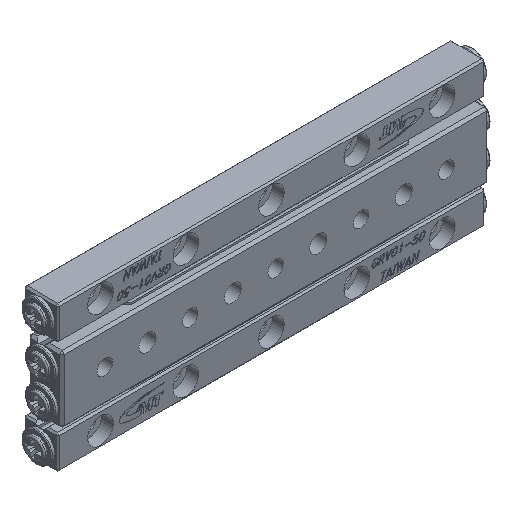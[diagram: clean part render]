
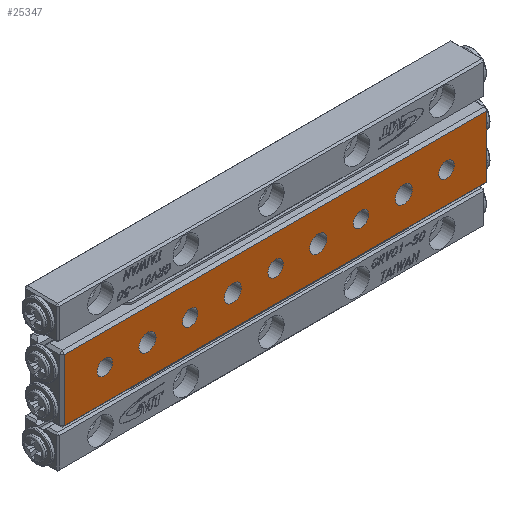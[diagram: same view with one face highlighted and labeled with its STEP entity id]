
A CAD part, isometric view. The second image highlights one B-rep face of the part: STEP entity #25347.
In plain terms, the highlighted planar face has unit normal (0, -1, 0).
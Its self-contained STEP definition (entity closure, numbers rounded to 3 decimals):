
#175 = ORIENTED_EDGE ( 'NONE', *, *, #200, .T. ) ;
#200 = EDGE_CURVE ( 'NONE', #33700, #33700, #25086, .T. ) ;
#463 = FACE_BOUND ( 'NONE', #28427, .T. ) ;
#865 = CIRCLE ( 'NONE', #5058, 1. ) ;
#1080 = DIRECTION ( 'NONE',  ( 0., 1., 0. ) ) ;
#1584 = CARTESIAN_POINT ( 'NONE',  ( -5., 0., 1. ) ) ;
#2842 = ORIENTED_EDGE ( 'NONE', *, *, #3937, .T. ) ;
#3348 = DIRECTION ( 'NONE',  ( 0., 1., 0. ) ) ;
#3487 = EDGE_LOOP ( 'NONE', ( #34354 ) ) ;
#3748 = FACE_OUTER_BOUND ( 'NONE', #29492, .T. ) ;
#3937 = EDGE_CURVE ( 'NONE', #30383, #30383, #20262, .T. ) ;
#3955 = CARTESIAN_POINT ( 'NONE',  ( 0., 0., 0.9 ) ) ;
#4145 = CARTESIAN_POINT ( 'NONE',  ( 10., 0., 0. ) ) ;
#4470 = ORIENTED_EDGE ( 'NONE', *, *, #35622, .T. ) ;
#4490 = DIRECTION ( 'NONE',  ( 0., 1., 0. ) ) ;
#4651 = VERTEX_POINT ( 'NONE', #1584 ) ;
#5053 = ORIENTED_EDGE ( 'NONE', *, *, #40429, .T. ) ;
#5058 = AXIS2_PLACEMENT_3D ( 'NONE', #26962, #40388, #43452 ) ;
#5215 = AXIS2_PLACEMENT_3D ( 'NONE', #33647, #32771, #19809 ) ;
#5312 = VERTEX_POINT ( 'NONE', #6179 ) ;
#5518 = CARTESIAN_POINT ( 'NONE',  ( -10., 0., 0.9 ) ) ;
#5957 = LINE ( 'NONE', #19376, #21195 ) ;
#6179 = CARTESIAN_POINT ( 'NONE',  ( 15., 0., 1. ) ) ;
#6372 = AXIS2_PLACEMENT_3D ( 'NONE', #40692, #37825, #14294 ) ;
#7284 = ORIENTED_EDGE ( 'NONE', *, *, #42427, .T. ) ;
#7300 = AXIS2_PLACEMENT_3D ( 'NONE', #28436, #4490, #42302 ) ;
#7314 = CARTESIAN_POINT ( 'NONE',  ( -20., 0., 0.9 ) ) ;
#7539 = VERTEX_POINT ( 'NONE', #27032 ) ;
#7680 = CIRCLE ( 'NONE', #23872, 1. ) ;
#7687 = PLANE ( 'NONE',  #6372 ) ;
#8328 = CARTESIAN_POINT ( 'NONE',  ( -15., 0., 0. ) ) ;
#9519 = CARTESIAN_POINT ( 'NONE',  ( 20., 0., 0. ) ) ;
#10146 = VERTEX_POINT ( 'NONE', #3955 ) ;
#11515 = EDGE_CURVE ( 'NONE', #21446, #23902, #19653, .T. ) ;
#12212 = CIRCLE ( 'NONE', #39632, 1. ) ;
#12295 = CIRCLE ( 'NONE', #20024, 0.9 ) ;
#12845 = DIRECTION ( 'NONE',  ( 0., 0., 1. ) ) ;
#12914 = EDGE_LOOP ( 'NONE', ( #7284 ) ) ;
#13219 = CARTESIAN_POINT ( 'NONE',  ( 20., 0., 0.9 ) ) ;
#13663 = FACE_BOUND ( 'NONE', #17762, .T. ) ;
#13716 = DIRECTION ( 'NONE',  ( 0., 1., 0. ) ) ;
#13866 = FACE_BOUND ( 'NONE', #29063, .T. ) ;
#14294 = DIRECTION ( 'NONE',  ( 0., 0., 1. ) ) ;
#14873 = EDGE_CURVE ( 'NONE', #24669, #24669, #37465, .T. ) ;
#14995 = CARTESIAN_POINT ( 'NONE',  ( 10., 0., 0.9 ) ) ;
#15423 = EDGE_CURVE ( 'NONE', #23902, #15991, #38181, .T. ) ;
#15718 = VECTOR ( 'NONE', #42334, 1000. ) ;
#15991 = VERTEX_POINT ( 'NONE', #24392 ) ;
#16103 = EDGE_CURVE ( 'NONE', #4651, #4651, #12212, .T. ) ;
#16121 = CARTESIAN_POINT ( 'NONE',  ( -20., 0., 0. ) ) ;
#16753 = DIRECTION ( 'NONE',  ( 0., 0., 1. ) ) ;
#17213 = DIRECTION ( 'NONE',  ( -1., 0., 0. ) ) ;
#17517 = ORIENTED_EDGE ( 'NONE', *, *, #11515, .T. ) ;
#17762 = EDGE_LOOP ( 'NONE', ( #27767 ) ) ;
#17809 = FACE_BOUND ( 'NONE', #32739, .T. ) ;
#18604 = CARTESIAN_POINT ( 'NONE',  ( -25., 0., -3.6 ) ) ;
#19163 = VERTEX_POINT ( 'NONE', #36097 ) ;
#19376 = CARTESIAN_POINT ( 'NONE',  ( 24.7, 0., 3.9 ) ) ;
#19653 = LINE ( 'NONE', #43403, #29548 ) ;
#19809 = DIRECTION ( 'NONE',  ( 0., 0., 1. ) ) ;
#20024 = AXIS2_PLACEMENT_3D ( 'NONE', #9519, #35699, #29499 ) ;
#20262 = CIRCLE ( 'NONE', #23789, 0.9 ) ;
#20298 = CARTESIAN_POINT ( 'NONE',  ( -25., 0., 3.6 ) ) ;
#20462 = VERTEX_POINT ( 'NONE', #13219 ) ;
#21195 = VECTOR ( 'NONE', #42892, 1000. ) ;
#21446 = VERTEX_POINT ( 'NONE', #42747 ) ;
#21973 = DIRECTION ( 'NONE',  ( 0., 1., 0. ) ) ;
#22067 = CARTESIAN_POINT ( 'NONE',  ( -24.7, 0., -3.6 ) ) ;
#23597 = CARTESIAN_POINT ( 'NONE',  ( 5., 0., 0. ) ) ;
#23789 = AXIS2_PLACEMENT_3D ( 'NONE', #16121, #13716, #12845 ) ;
#23872 = AXIS2_PLACEMENT_3D ( 'NONE', #23597, #3348, #16753 ) ;
#23902 = VERTEX_POINT ( 'NONE', #22067 ) ;
#23990 = FACE_BOUND ( 'NONE', #38385, .T. ) ;
#24061 = EDGE_CURVE ( 'NONE', #19163, #19163, #7680, .T. ) ;
#24392 = CARTESIAN_POINT ( 'NONE',  ( 24.7, 0., -3.6 ) ) ;
#24669 = VERTEX_POINT ( 'NONE', #14995 ) ;
#24830 = AXIS2_PLACEMENT_3D ( 'NONE', #4145, #1080, #27668 ) ;
#24903 = CIRCLE ( 'NONE', #5215, 0.9 ) ;
#25038 = DIRECTION ( 'NONE',  ( 0., 1., 0. ) ) ;
#25086 = CIRCLE ( 'NONE', #26501, 1. ) ;
#25244 = DIRECTION ( 'NONE',  ( 0., 0., 1. ) ) ;
#25347 = ADVANCED_FACE ( 'NONE', ( #3748, #463, #27696, #40494, #13866, #30977, #13663, #17809, #23990, #41126 ), #7687, .F. ) ;
#25468 = CARTESIAN_POINT ( 'NONE',  ( -5., 0., 0. ) ) ;
#26258 = CIRCLE ( 'NONE', #7300, 0.9 ) ;
#26501 = AXIS2_PLACEMENT_3D ( 'NONE', #8328, #21973, #35382 ) ;
#26962 = CARTESIAN_POINT ( 'NONE',  ( 15., 0., 0. ) ) ;
#27032 = CARTESIAN_POINT ( 'NONE',  ( 24.7, 0., 3.6 ) ) ;
#27668 = DIRECTION ( 'NONE',  ( 0., 0., 1. ) ) ;
#27696 = FACE_BOUND ( 'NONE', #3487, .T. ) ;
#27767 = ORIENTED_EDGE ( 'NONE', *, *, #14873, .T. ) ;
#28427 = EDGE_LOOP ( 'NONE', ( #35496 ) ) ;
#28436 = CARTESIAN_POINT ( 'NONE',  ( 0., 0., 0. ) ) ;
#29063 = EDGE_LOOP ( 'NONE', ( #175 ) ) ;
#29492 = EDGE_LOOP ( 'NONE', ( #17517, #38239, #4470, #33663 ) ) ;
#29499 = DIRECTION ( 'NONE',  ( 0., 0., 1. ) ) ;
#29548 = VECTOR ( 'NONE', #43194, 1000. ) ;
#30383 = VERTEX_POINT ( 'NONE', #7314 ) ;
#30977 = FACE_BOUND ( 'NONE', #12914, .T. ) ;
#31167 = VECTOR ( 'NONE', #17213, 1000. ) ;
#32739 = EDGE_LOOP ( 'NONE', ( #5053 ) ) ;
#32771 = DIRECTION ( 'NONE',  ( 0., 1., 0. ) ) ;
#33313 = ORIENTED_EDGE ( 'NONE', *, *, #39513, .T. ) ;
#33647 = CARTESIAN_POINT ( 'NONE',  ( -10., 0., 0. ) ) ;
#33663 = ORIENTED_EDGE ( 'NONE', *, *, #43522, .T. ) ;
#33700 = VERTEX_POINT ( 'NONE', #42783 ) ;
#34354 = ORIENTED_EDGE ( 'NONE', *, *, #24061, .T. ) ;
#35382 = DIRECTION ( 'NONE',  ( 0., 0., 1. ) ) ;
#35496 = ORIENTED_EDGE ( 'NONE', *, *, #36358, .T. ) ;
#35622 = EDGE_CURVE ( 'NONE', #15991, #7539, #5957, .T. ) ;
#35662 = VERTEX_POINT ( 'NONE', #5518 ) ;
#35699 = DIRECTION ( 'NONE',  ( 0., 1., 0. ) ) ;
#36097 = CARTESIAN_POINT ( 'NONE',  ( 5., 0., 1. ) ) ;
#36358 = EDGE_CURVE ( 'NONE', #5312, #5312, #865, .T. ) ;
#36897 = EDGE_LOOP ( 'NONE', ( #40360 ) ) ;
#37447 = LINE ( 'NONE', #20298, #31167 ) ;
#37465 = CIRCLE ( 'NONE', #24830, 0.9 ) ;
#37825 = DIRECTION ( 'NONE',  ( 0., 1., 0. ) ) ;
#38181 = LINE ( 'NONE', #18604, #15718 ) ;
#38239 = ORIENTED_EDGE ( 'NONE', *, *, #15423, .T. ) ;
#38385 = EDGE_LOOP ( 'NONE', ( #33313 ) ) ;
#39513 = EDGE_CURVE ( 'NONE', #35662, #35662, #24903, .T. ) ;
#39632 = AXIS2_PLACEMENT_3D ( 'NONE', #25468, #25038, #25244 ) ;
#39962 = EDGE_LOOP ( 'NONE', ( #2842 ) ) ;
#40360 = ORIENTED_EDGE ( 'NONE', *, *, #16103, .T. ) ;
#40388 = DIRECTION ( 'NONE',  ( 0., 1., 0. ) ) ;
#40429 = EDGE_CURVE ( 'NONE', #10146, #10146, #26258, .T. ) ;
#40494 = FACE_BOUND ( 'NONE', #36897, .T. ) ;
#40692 = CARTESIAN_POINT ( 'NONE',  ( -25., 0., 3.9 ) ) ;
#41126 = FACE_BOUND ( 'NONE', #39962, .T. ) ;
#42302 = DIRECTION ( 'NONE',  ( 0., 0., 1. ) ) ;
#42334 = DIRECTION ( 'NONE',  ( 1., 0., 0. ) ) ;
#42427 = EDGE_CURVE ( 'NONE', #20462, #20462, #12295, .T. ) ;
#42747 = CARTESIAN_POINT ( 'NONE',  ( -24.7, 0., 3.6 ) ) ;
#42783 = CARTESIAN_POINT ( 'NONE',  ( -15., 0., 1. ) ) ;
#42892 = DIRECTION ( 'NONE',  ( 0., 0., 1. ) ) ;
#43194 = DIRECTION ( 'NONE',  ( 0., 0., -1. ) ) ;
#43403 = CARTESIAN_POINT ( 'NONE',  ( -24.7, 0., 3.9 ) ) ;
#43452 = DIRECTION ( 'NONE',  ( 0., 0., 1. ) ) ;
#43522 = EDGE_CURVE ( 'NONE', #7539, #21446, #37447, .T. ) ;
